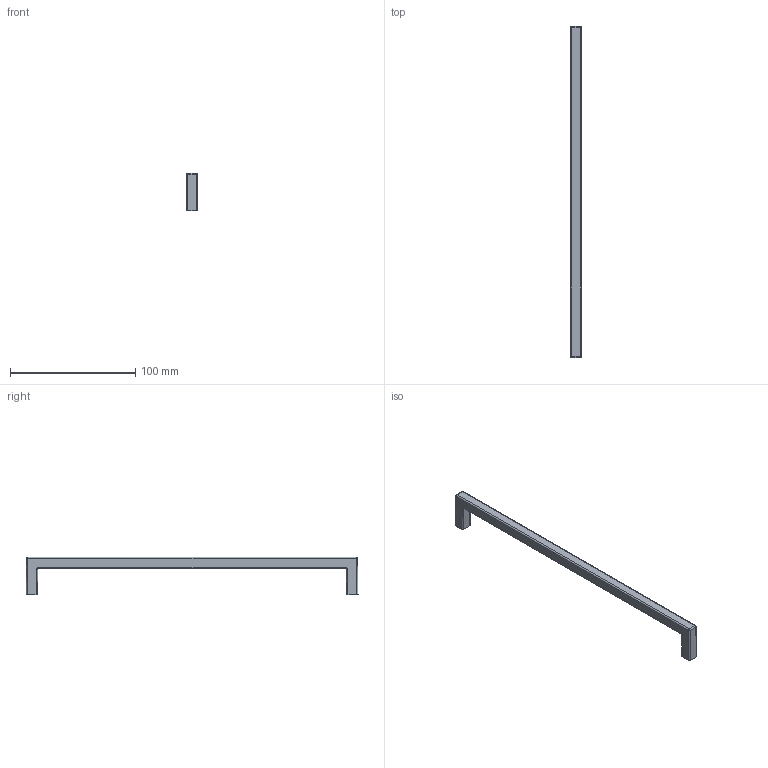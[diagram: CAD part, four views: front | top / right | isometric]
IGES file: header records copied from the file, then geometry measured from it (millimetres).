
Start section: C
Global section: file name: 8137-265.igs; native system: By Siemens PLM Incorporated; preprocessor: XPlus GENERIC/IGES 16.0.42; author: Author; organization: Title; date: 20210505.121014; units: millimetre
Bounding box: 9 x 265 x 30 mm (x, y, z)
Surface area: 20524.8 mm2 (no closed solid volume)
Topology: 0 solids, 0 shells, 116 faces, 596 edges, 592 vertices
Faces by surface type: bspline 116
